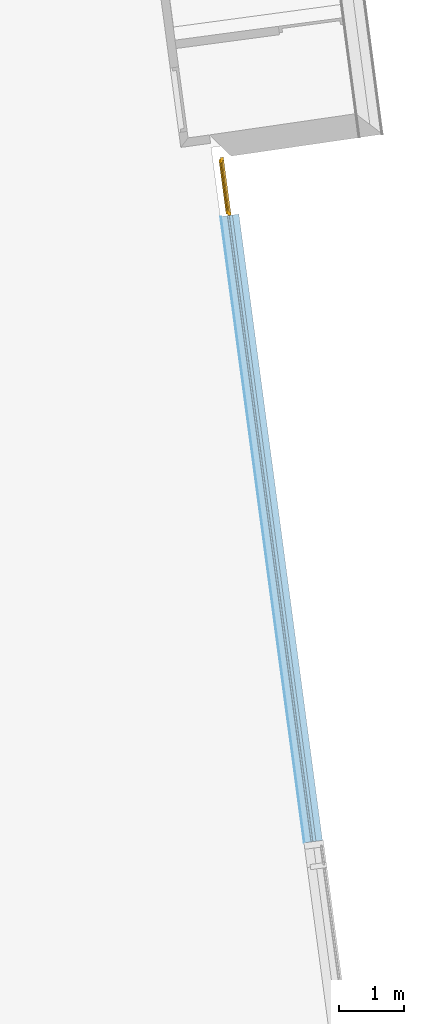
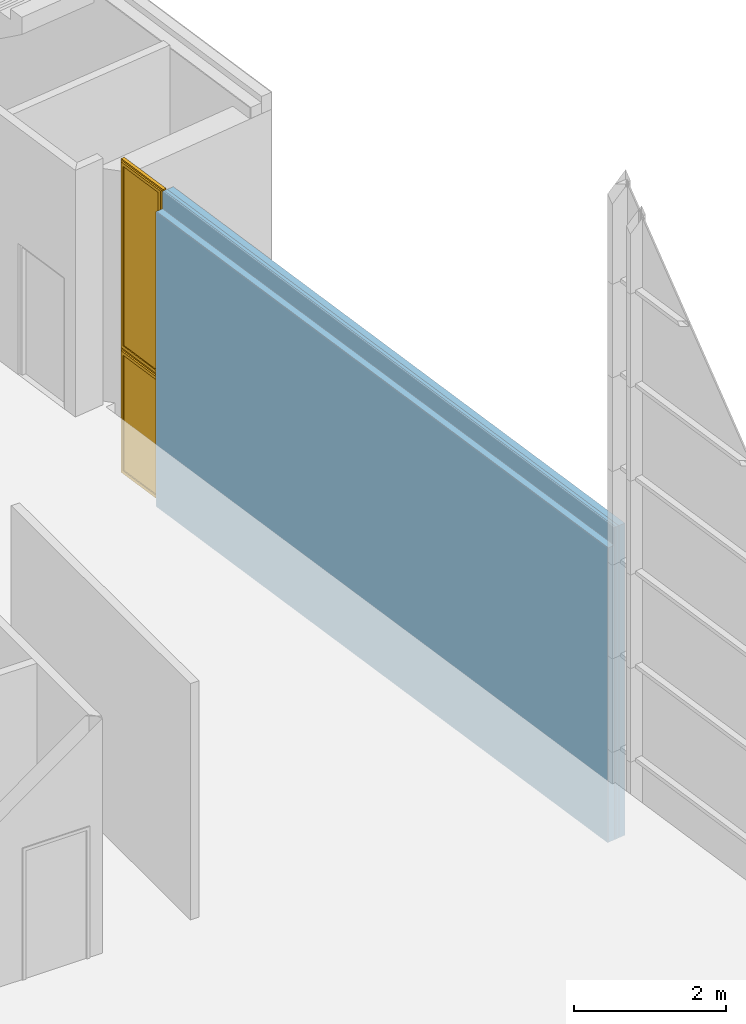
# One storey, part 27 of 27: 2 windows, 2 openings, 1 element without a shape of its own, plus 5 elements that do not belong to this part.
"""IFC2X3 building model written with IfcOpenShell, lengths in metres."""

from ifc_helpers import new_model, entity, si_unit, converted_unit, money_unit, direction, frame, origin_with_axes, origin_2d_with_axis, place, context, subcontext, project, spatial, polyline, rectangle, outline, extrude, faceted_brep, source, transform, mapped, material, material_list, type_object, element, fill, aggregate, save


model = new_model("IFC2X3")

# Units and contexts
model_context = context("Model", 3, precision=1e-05, world=origin_with_axes(), true_north=direction((0.0, 1.0)))
body_context = subcontext(model_context, "Body", "Model", "MODEL_VIEW")
ifc_project = project(units=[si_unit("LENGTHUNIT", "METRE"), si_unit("AREAUNIT", "SQUARE_METRE"), si_unit("VOLUMEUNIT", "CUBIC_METRE"), converted_unit("PLANEANGLEUNIT", "DEGREE", entity("IfcPlaneAngleMeasure", 0.0174532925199), si_unit("PLANEANGLEUNIT", "RADIAN"), dimensions=[0, 0, 0, 0, 0, 0, 0]), si_unit("SOLIDANGLEUNIT", "STERADIAN"), money_unit("EUR"), converted_unit("TIMEUNIT", "Year", entity("IfcTimeMeasure", 31556926.0), si_unit("TIMEUNIT", "SECOND"), dimensions=[0, 0, 0, 0, 0, 0, 0]), si_unit("MASSUNIT", "GRAM"), si_unit("THERMODYNAMICTEMPERATUREUNIT", "DEGREE_CELSIUS"), si_unit("LUMINOUSINTENSITYUNIT", "LUMEN")], contexts=[model_context])

# Site, building, storey
site_placement = place(None, origin_with_axes())
site = spatial("IfcSite", under=ifc_project, at=site_placement, Name="Undefined", CompositionType="ELEMENT")
building_placement = place(site_placement, origin_with_axes())
building = spatial("IfcBuilding", under=site, at=building_placement, Name="Undefined", CompositionType="ELEMENT")
storey_placement = place(building_placement, frame((0.0, 0.0, 5.4), z_axis=(0.0, 0.0, 1.0), x_axis=(1.0, 0.0, 0.0)))
storey = spatial("IfcBuildingStorey", under=building, at=storey_placement, Name="R+1", CompositionType="ELEMENT", Elevation=5.4)

# Window
ifc_material_1 = material(Name="Background")
ifc_material_2 = material(Name="Air Space")
ifc_material_3 = material(Name="Rigid Insulation")
ifc_material_list = material_list([ifc_material_1, ifc_material_2, ifc_material_1, ifc_material_1, ifc_material_1, ifc_material_3, ifc_material_1, ifc_material_1, ifc_material_1, ifc_material_1, ifc_material_2, ifc_material_1, ifc_material_1])
window_style = type_object("IfcWindowStyle", Name="Fen\x90tre 18", ConstructionType="NOTDEFINED", OperationType="SINGLE_PANEL", ParameterTakesPrecedence=False, Sizeable=False)
shared_shape_1 = source(origin_with_axes(), body_context, "Body", "Brep", [
    faceted_brep([(0.425, 0.0, 1.975), (0.425, -0.025, 1.975), (0.4, -0.025, 1.95), (0.4, -0.05, 1.95), (0.45, -0.05, 2.0), (0.45, 0.0, 2.0), (0.425, 0.0, 0.025), (0.425, -0.025, 0.025), (0.4, -0.025, 0.05), (0.4, -0.05, 0.05), (0.45, -0.05, 0.0), (0.45, 0.0, 0.0)], [[[0, 1, 2, 3, 4, 5]], [[0, 6, 7, 1]], [[8, 2, 1, 7]], [[2, 8, 9, 3]], [[3, 9, 10, 4]], [[4, 10, 11, 5]], [[6, 0, 5, 11]], [[7, 6, 11, 10, 9, 8]]]),
    faceted_brep([(-0.4, -0.025, 1.95), (-0.425, -0.025, 1.975), (-0.425, 0.0, 1.975), (-0.45, 0.0, 2.0), (-0.45, -0.05, 2.0), (-0.4, -0.05, 1.95), (-0.4, -0.025, 0.05), (-0.425, -0.025, 0.025), (-0.425, 0.0, 0.025), (-0.45, 0.0, 0.0), (-0.45, -0.05, 0.0), (-0.4, -0.05, 0.05)], [[[0, 1, 2, 3, 4, 5]], [[1, 0, 6, 7]], [[8, 2, 1, 7]], [[2, 8, 9, 3]], [[10, 4, 3, 9]], [[11, 5, 4, 10]], [[6, 0, 5, 11]], [[7, 6, 11, 10, 9, 8]]]),
    faceted_brep([(-0.4, -0.025, 0.05), (-0.425, -0.025, 0.025), (-0.425, 0.0, 0.025), (-0.45, 0.0, 0.0), (-0.45, -0.05, 0.0), (-0.4, -0.05, 0.05), (0.4, -0.025, 0.05), (0.425, -0.025, 0.025), (0.425, 0.0, 0.025), (0.45, 0.0, 0.0), (0.45, -0.05, 0.0), (0.4, -0.05, 0.05)], [[[0, 1, 2, 3, 4, 5]], [[1, 0, 6, 7]], [[8, 2, 1, 7]], [[2, 8, 9, 3]], [[10, 4, 3, 9]], [[11, 5, 4, 10]], [[6, 0, 5, 11]], [[7, 6, 11, 10, 9, 8]]]),
    faceted_brep([(0.425, 0.0, 1.975), (-0.425, 0.0, 1.975), (-0.45, 0.0, 2.0), (0.45, 0.0, 2.0), (0.425, -0.025, 1.975), (-0.425, -0.025, 1.975), (-0.4, -0.025, 1.95), (-0.4, -0.05, 1.95), (-0.45, -0.05, 2.0), (0.45, -0.05, 2.0), (0.4, -0.05, 1.95), (0.4, -0.025, 1.95)], [[[0, 1, 2, 3]], [[1, 0, 4, 5]], [[5, 6, 7, 8, 2, 1]], [[8, 9, 3, 2]], [[4, 0, 3, 9, 10, 11]], [[6, 5, 4, 11]], [[6, 11, 10, 7]], [[7, 10, 9, 8]]]),
    faceted_brep([(0.375, -0.025, 1.925), (0.425, -0.025, 1.975), (0.425, 0.025, 1.975), (0.375, 0.025, 1.925), (0.375, -0.025, 0.075), (0.425, -0.025, 0.025), (0.425, 0.025, 0.025), (0.375, 0.025, 0.075)], [[[0, 1, 2, 3]], [[0, 4, 5, 1]], [[1, 5, 6, 2]], [[3, 2, 6, 7]], [[4, 0, 3, 7]], [[5, 4, 7, 6]]]),
    faceted_brep([(-0.375, -0.025, 0.075), (-0.425, -0.025, 0.025), (-0.425, 0.025, 0.025), (-0.375, 0.025, 0.075), (-0.375, -0.025, 1.925), (-0.425, -0.025, 1.975), (-0.425, 0.025, 1.975), (-0.375, 0.025, 1.925)], [[[0, 1, 2, 3]], [[0, 4, 5, 1]], [[1, 5, 6, 2]], [[3, 2, 6, 7]], [[4, 0, 3, 7]], [[5, 4, 7, 6]]]),
    faceted_brep([(-0.425, -0.025, 0.025), (-0.375, -0.025, 0.075), (-0.375, 0.025, 0.075), (-0.425, 0.025, 0.025), (0.425, -0.025, 0.025), (0.375, -0.025, 0.075), (0.375, 0.025, 0.075), (0.425, 0.025, 0.025)], [[[0, 1, 2, 3]], [[0, 4, 5, 1]], [[1, 5, 6, 2]], [[3, 2, 6, 7]], [[4, 0, 3, 7]], [[5, 4, 7, 6]]]),
    faceted_brep([(0.425, -0.025, 1.975), (0.375, -0.025, 1.925), (0.375, 0.025, 1.925), (0.425, 0.025, 1.975), (-0.425, -0.025, 1.975), (-0.375, -0.025, 1.925), (-0.375, 0.025, 1.925), (-0.425, 0.025, 1.975)], [[[0, 1, 2, 3]], [[0, 4, 5, 1]], [[1, 5, 6, 2]], [[3, 2, 6, 7]], [[4, 0, 3, 7]], [[5, 4, 7, 6]]]),
    faceted_brep([(0.375, -0.01, 0.075), (-0.375, -0.01, 0.075), (-0.375, 0.01, 0.075), (0.375, 0.01, 0.075), (0.375, -0.01, 1.925), (-0.375, -0.01, 1.925), (-0.375, 0.01, 1.925), (0.375, 0.01, 1.925)], [[[0, 1, 2, 3]], [[0, 4, 5, 1]], [[1, 5, 6, 2]], [[3, 2, 6, 7]], [[4, 0, 3, 7]], [[5, 4, 7, 6]]]),
])
wall_placement = place(storey_placement, frame((67.4260984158, 9.3379372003, -1.0), z_axis=(0.0, 0.0, 1.0), x_axis=(-0.132256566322, 0.991215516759, 0.0)))
opening_1_placement = place(wall_placement, frame((10.1631166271, 0.0, 0.0), z_axis=(0.0, 0.0, 1.0), x_axis=(1.0, 0.0, 0.0)))
window_1_placement = place(opening_1_placement, frame((-0.45, 0.0, 0.0), z_axis=(0.0, 0.0, 1.0), x_axis=(1.0, 0.0, 0.0)))
window_1 = element("IfcWindow", 1, at=window_1_placement, inside=storey, type_object=window_style, material=ifc_material_list, Name="WD - 004", OverallHeight=2.0, OverallWidth=0.9, context=body_context, shape_type="MappedRepresentation", body=[
    mapped(shared_shape_1, transform((0.45, 0.17, 0.0))),
])

shared_shape_2 = source(origin_with_axes(), body_context, "Body", "Brep", [
    faceted_brep([(0.425, 0.0, 3.0), (0.425, -0.025, 3.0), (0.4, -0.025, 2.975), (0.4, -0.05, 2.975), (0.45, -0.05, 3.025), (0.45, 0.0, 3.025), (0.425, 0.0, 0.025), (0.425, -0.025, 0.025), (0.4, -0.025, 0.05), (0.4, -0.05, 0.05), (0.45, -0.05, 0.0), (0.45, 0.0, 0.0)], [[[0, 1, 2, 3, 4, 5]], [[0, 6, 7, 1]], [[8, 2, 1, 7]], [[2, 8, 9, 3]], [[3, 9, 10, 4]], [[4, 10, 11, 5]], [[6, 0, 5, 11]], [[7, 6, 11, 10, 9, 8]]]),
    faceted_brep([(-0.4, -0.025, 2.975), (-0.425, -0.025, 3.0), (-0.425, 0.0, 3.0), (-0.45, 0.0, 3.025), (-0.45, -0.05, 3.025), (-0.4, -0.05, 2.975), (-0.4, -0.025, 0.05), (-0.425, -0.025, 0.025), (-0.425, 0.0, 0.025), (-0.45, 0.0, 0.0), (-0.45, -0.05, 0.0), (-0.4, -0.05, 0.05)], [[[0, 1, 2, 3, 4, 5]], [[1, 0, 6, 7]], [[8, 2, 1, 7]], [[2, 8, 9, 3]], [[10, 4, 3, 9]], [[11, 5, 4, 10]], [[6, 0, 5, 11]], [[7, 6, 11, 10, 9, 8]]]),
    faceted_brep([(-0.4, -0.025, 0.05), (-0.425, -0.025, 0.025), (-0.425, 0.0, 0.025), (-0.45, 0.0, 0.0), (-0.45, -0.05, 0.0), (-0.4, -0.05, 0.05), (0.4, -0.025, 0.05), (0.425, -0.025, 0.025), (0.425, 0.0, 0.025), (0.45, 0.0, 0.0), (0.45, -0.05, 0.0), (0.4, -0.05, 0.05)], [[[0, 1, 2, 3, 4, 5]], [[1, 0, 6, 7]], [[8, 2, 1, 7]], [[2, 8, 9, 3]], [[10, 4, 3, 9]], [[11, 5, 4, 10]], [[6, 0, 5, 11]], [[7, 6, 11, 10, 9, 8]]]),
    faceted_brep([(0.425, 0.0, 3.0), (-0.425, 0.0, 3.0), (-0.45, 0.0, 3.025), (0.45, 0.0, 3.025), (0.425, -0.025, 3.0), (-0.425, -0.025, 3.0), (-0.4, -0.025, 2.975), (-0.4, -0.05, 2.975), (-0.45, -0.05, 3.025), (0.45, -0.05, 3.025), (0.4, -0.05, 2.975), (0.4, -0.025, 2.975)], [[[0, 1, 2, 3]], [[1, 0, 4, 5]], [[5, 6, 7, 8, 2, 1]], [[8, 9, 3, 2]], [[4, 0, 3, 9, 10, 11]], [[6, 5, 4, 11]], [[6, 11, 10, 7]], [[7, 10, 9, 8]]]),
    faceted_brep([(0.375, -0.025, 2.95), (0.425, -0.025, 3.0), (0.425, 0.025, 3.0), (0.375, 0.025, 2.95), (0.375, -0.025, 0.075), (0.425, -0.025, 0.025), (0.425, 0.025, 0.025), (0.375, 0.025, 0.075)], [[[0, 1, 2, 3]], [[0, 4, 5, 1]], [[1, 5, 6, 2]], [[3, 2, 6, 7]], [[4, 0, 3, 7]], [[5, 4, 7, 6]]]),
    faceted_brep([(-0.375, -0.025, 0.075), (-0.425, -0.025, 0.025), (-0.425, 0.025, 0.025), (-0.375, 0.025, 0.075), (-0.375, -0.025, 2.95), (-0.425, -0.025, 3.0), (-0.425, 0.025, 3.0), (-0.375, 0.025, 2.95)], [[[0, 1, 2, 3]], [[0, 4, 5, 1]], [[1, 5, 6, 2]], [[3, 2, 6, 7]], [[4, 0, 3, 7]], [[5, 4, 7, 6]]]),
    faceted_brep([(-0.425, -0.025, 0.025), (-0.375, -0.025, 0.075), (-0.375, 0.025, 0.075), (-0.425, 0.025, 0.025), (0.425, -0.025, 0.025), (0.375, -0.025, 0.075), (0.375, 0.025, 0.075), (0.425, 0.025, 0.025)], [[[0, 1, 2, 3]], [[0, 4, 5, 1]], [[1, 5, 6, 2]], [[3, 2, 6, 7]], [[4, 0, 3, 7]], [[5, 4, 7, 6]]]),
    faceted_brep([(0.425, -0.025, 3.0), (0.375, -0.025, 2.95), (0.375, 0.025, 2.95), (0.425, 0.025, 3.0), (-0.425, -0.025, 3.0), (-0.375, -0.025, 2.95), (-0.375, 0.025, 2.95), (-0.425, 0.025, 3.0)], [[[0, 1, 2, 3]], [[0, 4, 5, 1]], [[1, 5, 6, 2]], [[3, 2, 6, 7]], [[4, 0, 3, 7]], [[5, 4, 7, 6]]]),
    faceted_brep([(0.375, -0.01, 0.075), (-0.375, -0.01, 0.075), (-0.375, 0.01, 0.075), (0.375, 0.01, 0.075), (0.375, -0.01, 2.95), (-0.375, -0.01, 2.95), (-0.375, 0.01, 2.95), (0.375, 0.01, 2.95)], [[[0, 1, 2, 3]], [[0, 4, 5, 1]], [[1, 5, 6, 2]], [[3, 2, 6, 7]], [[4, 0, 3, 7]], [[5, 4, 7, 6]]]),
])
opening_2_placement = place(wall_placement, frame((10.1631166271, 0.0, 2.0), z_axis=(0.0, 0.0, 1.0), x_axis=(1.0, 0.0, 0.0)))
window_2_placement = place(opening_2_placement, frame((-0.45, 0.0, 0.0), z_axis=(0.0, 0.0, 1.0), x_axis=(1.0, 0.0, 0.0)))
window_2 = element("IfcWindow", 2, at=window_2_placement, inside=storey, type_object=window_style, material=ifc_material_list, Name="WD - 004", OverallHeight=3.025, OverallWidth=0.9, context=body_context, shape_type="MappedRepresentation", body=[
    mapped(shared_shape_2, transform((0.45, 0.17, 0.0))),
])

# Wall, opening
wall_type = type_object("IfcWallType", Name="1etage 287 x 5000", PredefinedType="NOTDEFINED")
wall = element("IfcWall", 3, at=wall_placement, inside=storey, type_object=wall_type, Name="ExtWall_01", ObjectType="WALL")
opening_1 = element("IfcOpeningElement", 4, at=opening_1_placement, cuts=wall, Name="WD - 004", context=body_context, shape_type="SweptSolid", body=[
    extrude(rectangle(XDim=0.9, YDim=2.0, at=origin_2d_with_axis()), frame((0.0, 0.574, 1.0), z_axis=(0.0, 1.0, 0.0), x_axis=(-1.0, 0.0, 0.0)), (0.0, 0.0, -1.0), 0.454),
    extrude(rectangle(XDim=0.9, YDim=2.0, at=origin_2d_with_axis()), frame((0.0, -0.287, 1.0), z_axis=(0.0, -1.0, 0.0), x_axis=(-1.0, 0.0, 0.0)), (0.0, 0.0, -1.0), 0.407),
])

fill(opening_1, window_1)

# Opening
opening_2 = element("IfcOpeningElement", 5, at=opening_2_placement, cuts=wall, Name="WD - 004", context=body_context, shape_type="SweptSolid", body=[
    extrude(rectangle(XDim=0.9, YDim=3.025, at=origin_2d_with_axis()), frame((0.0, 0.574, 1.5125), z_axis=(0.0, 1.0, 0.0), x_axis=(-1.0, 0.0, 0.0)), (0.0, 0.0, -1.0), 0.454),
    extrude(rectangle(XDim=0.9, YDim=3.025, at=origin_2d_with_axis()), frame((0.0, -0.287, 1.5125), z_axis=(0.0, -1.0, 0.0), x_axis=(-1.0, 0.0, 0.0)), (0.0, 0.0, -1.0), 0.407),
])

fill(opening_2, window_2)

# Building element part
ifc_material_4 = material(Name="Finition int - Enduit pl\x89tre")
building_element_part_1_placement = place(wall_placement, origin_with_axes())
building_element_part_1 = element("IfcBuildingElementPart", 6, at=building_element_part_1_placement, material=ifc_material_4, context=body_context, shape_type="SweptSolid", body=[
    extrude(outline(polyline([(-0.1, 0.0), (0.0, 0.0), (0.0, 5.0), (-0.1, 5.0), (-0.1, 0.0)])), frame((0.0, 0.0, 0.0), z_axis=(-1.0, 0.0, 0.0), x_axis=(0.0, -1.0, 0.0)), (0.0, 0.0, -1.0), 10.6131166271),
])

ifc_material_5 = material(Name="Lame d'air")
building_element_part_2_placement = place(wall_placement, origin_with_axes())
building_element_part_2 = element("IfcBuildingElementPart", 7, at=building_element_part_2_placement, material=ifc_material_5, context=body_context, shape_type="SweptSolid", body=[
    extrude(outline(polyline([(-0.15, 0.0), (-0.1, 0.0), (-0.1, 5.0), (-0.15, 5.0), (-0.15, 0.0)])), frame((0.0, 0.0, 0.0), z_axis=(-1.0, 0.0, 0.0), x_axis=(0.0, -1.0, 0.0)), (0.0, 0.0, -1.0), 10.6131166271),
])

ifc_material_6 = material(Name="Isolation - Laine de verre")
building_element_part_3_placement = place(wall_placement, origin_with_axes())
building_element_part_3 = element("IfcBuildingElementPart", 8, at=building_element_part_3_placement, material=ifc_material_6, context=body_context, shape_type="SweptSolid", body=[
    extrude(outline(polyline([(-0.175, 0.0), (-0.15, 0.0), (-0.15, 5.0), (-0.175, 5.0), (-0.175, 0.0)])), frame((0.0, 0.0, 0.0), z_axis=(-1.0, 0.0, 0.0), x_axis=(0.0, -1.0, 0.0)), (0.0, 0.0, -1.0), 10.6131166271),
])

ifc_material_7 = material(Name="Struct. - B.A. banch\x8e")
building_element_part_4_placement = place(wall_placement, origin_with_axes())
building_element_part_4 = element("IfcBuildingElementPart", 9, at=building_element_part_4_placement, material=ifc_material_7, context=body_context, shape_type="SweptSolid", body=[
    extrude(outline(polyline([(-0.275, 0.0), (-0.175, 0.0), (-0.175, 4.72), (-0.275, 4.72), (-0.275, 0.0)])), frame((0.0, 0.0, 0.0), z_axis=(-1.0, 0.0, 0.0), x_axis=(0.0, -1.0, 0.0)), (0.0, 0.0, -1.0), 10.6131166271),
])

ifc_material_8 = material(Name="Finition int - Enduit min\x8eral")
building_element_part_5_placement = place(wall_placement, origin_with_axes())
building_element_part_5 = element("IfcBuildingElementPart", 10, at=building_element_part_5_placement, material=ifc_material_8, context=body_context, shape_type="SweptSolid", body=[
    extrude(outline(polyline([(-0.287, 0.0), (-0.275, 0.0), (-0.275, 4.72), (-0.287, 4.72), (-0.287, 0.0)])), frame((0.0, 0.0, 0.0), z_axis=(-1.0, 0.0, 0.0), x_axis=(0.0, -1.0, 0.0)), (0.0, 0.0, -1.0), 10.6131166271),
])

aggregate(wall, [building_element_part_1, building_element_part_2, building_element_part_3, building_element_part_4, building_element_part_5])

save(model, "model.ifc")
